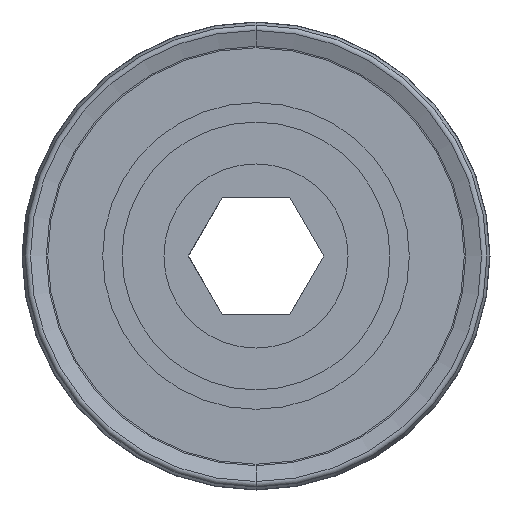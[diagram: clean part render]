
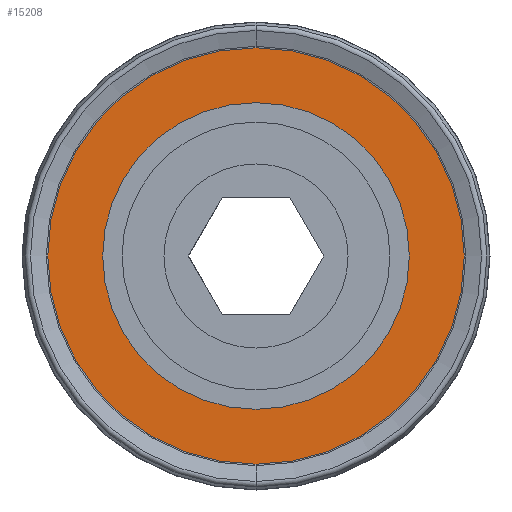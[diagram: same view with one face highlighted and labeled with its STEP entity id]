
A CAD part, left-side view. The second image highlights one B-rep face of the part: STEP entity #15208.
In plain terms, the highlighted planar face has unit normal (-1, 0, 0) as drawn and (0, 1, 0) by its records, which use the part's own axes.
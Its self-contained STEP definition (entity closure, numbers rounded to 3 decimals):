
#503 = EDGE_CURVE ( 'NONE', #1807, #2418, #17673, .T. ) ;
#826 = DIRECTION ( 'NONE',  ( 0., 0., -1. ) ) ;
#901 = CARTESIAN_POINT ( 'NONE',  ( 0., 1., -12.44 ) ) ;
#1807 = VERTEX_POINT ( 'NONE', #14008 ) ;
#1812 = DIRECTION ( 'NONE',  ( 0., -1., 0. ) ) ;
#2418 = VERTEX_POINT ( 'NONE', #6968 ) ;
#2900 = FACE_OUTER_BOUND ( 'NONE', #3711, .T. ) ;
#3550 = CARTESIAN_POINT ( 'NONE',  ( 0., 1., 0. ) ) ;
#3711 = EDGE_LOOP ( 'NONE', ( #15135, #11967 ) ) ;
#3782 = DIRECTION ( 'NONE',  ( 0., 1., 0. ) ) ;
#3847 = EDGE_LOOP ( 'NONE', ( #16994, #8819 ) ) ;
#3940 = EDGE_CURVE ( 'NONE', #9423, #10608, #7744, .T. ) ;
#4253 = CARTESIAN_POINT ( 'NONE',  ( 0., 1., 0. ) ) ;
#4605 = CARTESIAN_POINT ( 'NONE',  ( 0., 1., 0. ) ) ;
#4928 = CARTESIAN_POINT ( 'NONE',  ( 0., 1., 0. ) ) ;
#5629 = DIRECTION ( 'NONE',  ( 0., -1., 0. ) ) ;
#6576 = AXIS2_PLACEMENT_3D ( 'NONE', #4928, #3782, #14598 ) ;
#6968 = CARTESIAN_POINT ( 'NONE',  ( 0., 1., 9.16 ) ) ;
#7381 = DIRECTION ( 'NONE',  ( 0., 0., -1. ) ) ;
#7744 = CIRCLE ( 'NONE', #12819, 12.44 ) ;
#7777 = DIRECTION ( 'NONE',  ( 0., -1., 0. ) ) ;
#7871 = EDGE_CURVE ( 'NONE', #2418, #1807, #14806, .T. ) ;
#8259 = AXIS2_PLACEMENT_3D ( 'NONE', #4253, #5629, #11048 ) ;
#8708 = DIRECTION ( 'NONE',  ( 0., 0., -1. ) ) ;
#8819 = ORIENTED_EDGE ( 'NONE', *, *, #7871, .T. ) ;
#9396 = CARTESIAN_POINT ( 'NONE',  ( 0., 1., 12.44 ) ) ;
#9423 = VERTEX_POINT ( 'NONE', #901 ) ;
#9639 = AXIS2_PLACEMENT_3D ( 'NONE', #3550, #7777, #826 ) ;
#10456 = CIRCLE ( 'NONE', #6576, 12.44 ) ;
#10608 = VERTEX_POINT ( 'NONE', #9396 ) ;
#11048 = DIRECTION ( 'NONE',  ( 0., 0., -1. ) ) ;
#11111 = FACE_BOUND ( 'NONE', #3847, .T. ) ;
#11247 = CARTESIAN_POINT ( 'NONE',  ( 0., 1., 0. ) ) ;
#11967 = ORIENTED_EDGE ( 'NONE', *, *, #14645, .T. ) ;
#12819 = AXIS2_PLACEMENT_3D ( 'NONE', #11247, #16978, #8708 ) ;
#14008 = CARTESIAN_POINT ( 'NONE',  ( 0., 1., -9.16 ) ) ;
#14598 = DIRECTION ( 'NONE',  ( 0., 0., -1. ) ) ;
#14645 = EDGE_CURVE ( 'NONE', #10608, #9423, #10456, .T. ) ;
#14806 = CIRCLE ( 'NONE', #16783, 9.16 ) ;
#15135 = ORIENTED_EDGE ( 'NONE', *, *, #3940, .T. ) ;
#15208 = ADVANCED_FACE ( 'NONE', ( #2900, #11111 ), #16228, .F. ) ;
#16228 = PLANE ( 'NONE',  #9639 ) ;
#16783 = AXIS2_PLACEMENT_3D ( 'NONE', #4605, #1812, #7381 ) ;
#16978 = DIRECTION ( 'NONE',  ( 0., 1., 0. ) ) ;
#16994 = ORIENTED_EDGE ( 'NONE', *, *, #503, .T. ) ;
#17673 = CIRCLE ( 'NONE', #8259, 9.16 ) ;
